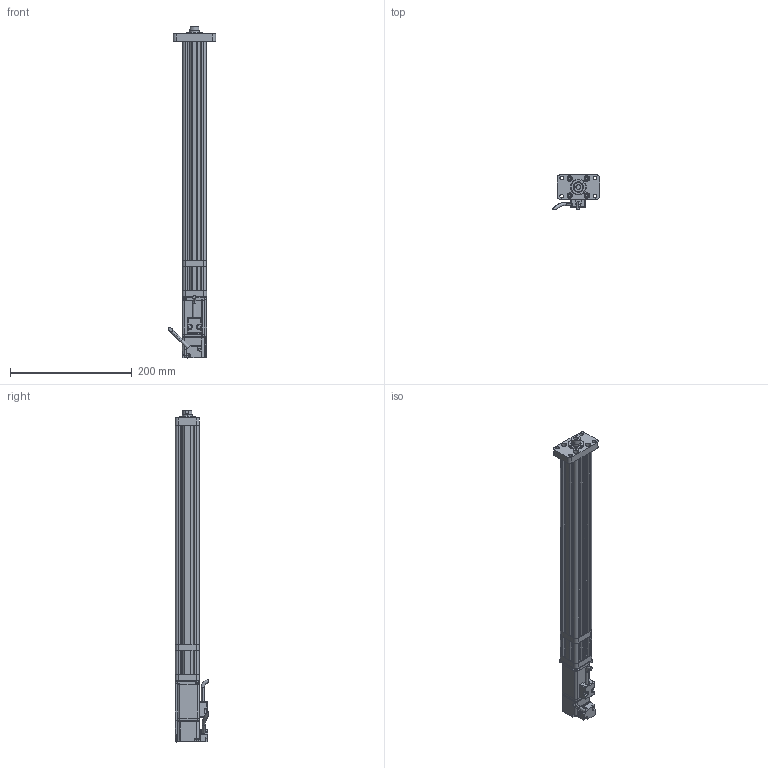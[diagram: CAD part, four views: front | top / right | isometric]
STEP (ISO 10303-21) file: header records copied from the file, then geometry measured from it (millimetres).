
FILE_DESCRIPTION (( 'STEP AP214' ), '1' );
FILE_NAME ('039-S300-D02-A-M3-C2-2.STEP', '2021-03-02T05:28:18', ( '' ), ( '' ), 'SwSTEP 2.0', 'SolidWorks 2018', '' );
FILE_SCHEMA (( 'AUTOMOTIVE_DESIGN' ));
Length unit declared in the file: millimetre
Products named in the file (8): CMC039-GT; CMC039-FL1; CMC039-ZLLJB; 039-S300-D02-A-M3-C2-2; CMC039-DT; CMC039-AZB; CMC039-DJZ; ECMA-CX0401ES-40框號系列機種-100W低慣量系列
Assembly tree (7 placements, depth 2):
  039-S300-D02-A-M3-C2-2
    CMC039-GT
    CMC039-DT
    CMC039-ZLLJB
    CMC039-DJZ
    ECMA-CX0401ES-40框號系列機種-100W低慣量系列
    CMC039-AZB
    CMC039-FL1
Bounding box: 77.83 x 55.39 x 545.6 mm (x, y, z)
Volume: 555563.1 mm3; surface area: 186272 mm2
Topology: 7 solids, 15 shells, 713 faces, 1880 edges, 1181 vertices
Faces by surface type: cylinder 298, plane 292, bspline 84, cone 39
Entity records: 28208 total; most frequent: CARTESIAN_POINT 11266, ORIENTED_EDGE 3694, DIRECTION 3033, EDGE_CURVE 1847, VERTEX_POINT 1181, AXIS2_PLACEMENT_3D 1035, LINE 963, VECTOR 963
